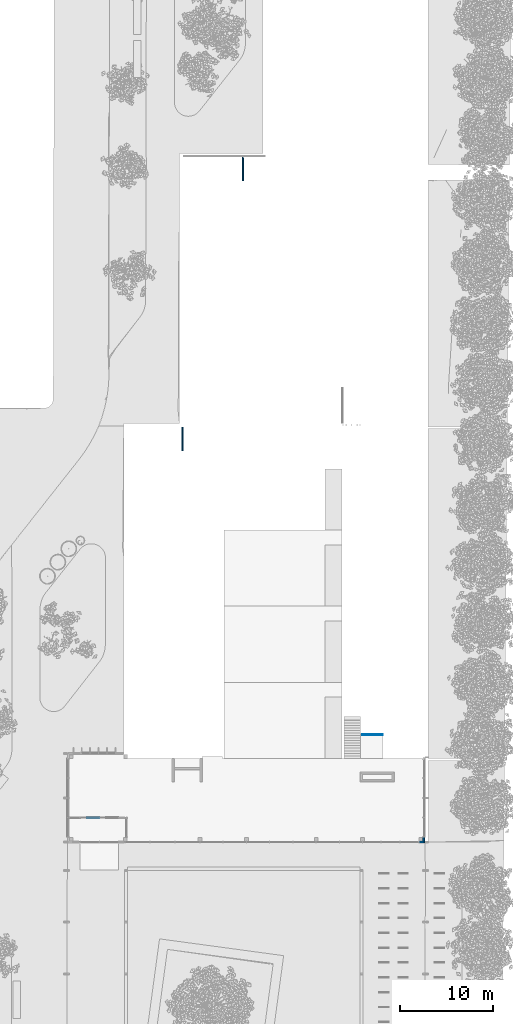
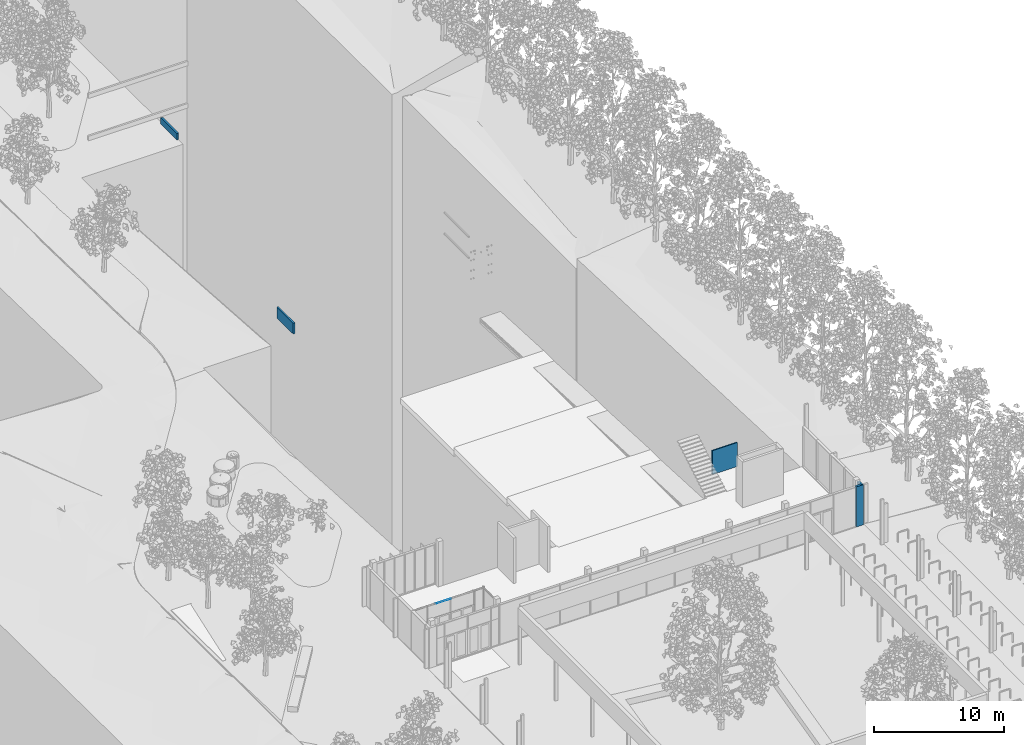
# One storey, part 10 of 69: 5 walls, 1 building element part, 2 elements without a shape of their own.
"""IFC2X3 building model written with IfcOpenShell, lengths in millimetres."""

from ifc_helpers import new_model, entity, si_unit, converted_unit, derived_unit, money_unit, direction, frame, origin_with_axes, place, context, subcontext, project, spatial, polyline, outline, extrude, faceted_brep, source, transform, mapped, material, layer, layer_set, layer_usage, type_object, element, aggregate, save


model = new_model("IFC2X3")

# Units and contexts
model_context = context("Model", 3, precision=0.01, world=origin_with_axes(), true_north=direction((0.0, 1.0)))
body_context = subcontext(model_context, "Body", "Model", "MODEL_VIEW")
ifc_project = project(units=[si_unit("LENGTHUNIT", "METRE", prefix="MILLI"), si_unit("AREAUNIT", "SQUARE_METRE"), si_unit("VOLUMEUNIT", "CUBIC_METRE"), converted_unit("PLANEANGLEUNIT", "DEGREE", entity("IfcPlaneAngleMeasure", 0.0174532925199), si_unit("PLANEANGLEUNIT", "RADIAN"), dimensions=[0, 0, 0, 0, 0, 0, 0]), si_unit("SOLIDANGLEUNIT", "STERADIAN"), money_unit("EUR"), converted_unit("TIMEUNIT", "Year", entity("IfcTimeMeasure", 31556926.0), si_unit("TIMEUNIT", "SECOND"), dimensions=[0, 0, 1, 0, 0, 0, 0]), si_unit("MASSUNIT", "GRAM", prefix="KILO"), si_unit("THERMODYNAMICTEMPERATUREUNIT", "DEGREE_CELSIUS"), si_unit("LUMINOUSINTENSITYUNIT", "LUMEN"), si_unit("ENERGYUNIT", "JOULE", prefix="MEGA"), derived_unit("THERMALCONDUCTANCEUNIT", [(si_unit("POWERUNIT", "WATT"), 1), (si_unit("LENGTHUNIT", "METRE"), -1), (si_unit("THERMODYNAMICTEMPERATUREUNIT", "KELVIN"), -1)]), derived_unit("SPECIFICHEATCAPACITYUNIT", [(si_unit("ENERGYUNIT", "JOULE"), 1), (si_unit("MASSUNIT", "GRAM", prefix="KILO"), -1), (si_unit("THERMODYNAMICTEMPERATUREUNIT", "KELVIN"), -1)]), derived_unit("MASSDENSITYUNIT", [(si_unit("MASSUNIT", "GRAM", prefix="KILO"), 1), (si_unit("VOLUMEUNIT", "CUBIC_METRE"), -1)])], contexts=[model_context])

# Site, building, storey
site_placement = place(None, origin_with_axes())
site = spatial("IfcSite", under=ifc_project, at=site_placement, Name="Puškini 31, Narva", CompositionType="ELEMENT")
building_placement = place(site_placement, origin_with_axes())
building = spatial("IfcBuilding", under=site, at=building_placement, Name="Narva Riigigümnaasium", CompositionType="ELEMENT")
storey_placement = place(building_placement, origin_with_axes())
storey = spatial("IfcBuildingStorey", under=building, at=storey_placement, Name="1.korrus 0.00", CompositionType="ELEMENT", Elevation=0.0)

# Walls
ifc_material_1 = material(Name="siseviimistlus-seinad")
ifc_layer_1 = layer(ifc_material_1, 15.0, ventilated="UNKNOWN")
ifc_material_2 = material(Name="Kipsplaat")
ifc_layer_2 = layer(ifc_material_2, 12.5, ventilated="UNKNOWN")
ifc_layer_3 = layer(ifc_material_2, 12.0, ventilated="UNKNOWN")
ifc_material_3 = material(Name="Karkass")
ifc_layer_4 = layer(ifc_material_3, 66.0, ventilated="UNKNOWN")
ifc_layer_set_1 = layer_set([ifc_layer_1, ifc_layer_2, ifc_layer_3, ifc_layer_4], Name="G-SS-06")
ifc_layer_usage_1 = layer_usage(ifc_layer_set_1, "AXIS2", "POSITIVE", -15.0)
wall_type_1 = type_object("IfcWallType", Name="G-SS-06 106", PredefinedType="NOTDEFINED")
wall_1_placement = place(storey_placement, frame((47700.0285912, 161515.000002, 0.0), z_axis=(0.0, 0.0, 1.0), x_axis=(1.0, 0.0, 0.0)))
element("IfcWallStandardCase", 1, at=wall_1_placement, inside=storey, type_object=wall_type_1, material=ifc_layer_usage_1, Name="Sisesein", context=body_context, shape_type="SweptSolid", body=[
    extrude(outline(polyline([(0.0, -15.0), (2214.73451653, -15.0), (2214.72048418, 90.5), (0.0, 90.5), (0.0, -15.0)])), origin_with_axes(), (0.0, 0.0, 1.0), 2240.0),
])
ifc_material_4 = material(Name="SKR-02_Kipsplaat")
ifc_layer_5 = layer(ifc_material_4, 12.5, ventilated="UNKNOWN")
ifc_material_5 = material(Name="SOJ-03_Soojustus - Mineraal Pehme")
ifc_layer_6 = layer(ifc_material_5, 100.0, ventilated="UNKNOWN")
ifc_layer_set_2 = layer_set([ifc_layer_5, ifc_layer_5, ifc_layer_6, ifc_layer_5, ifc_layer_5], Name="G-SS-09")
ifc_layer_usage_2 = layer_usage(ifc_layer_set_2, "AXIS2", "POSITIVE", 0.0)
wall_type_2 = type_object("IfcWallType", Name="G-SS-09 150", PredefinedType="NOTDEFINED")
wall_2_placement = place(storey_placement, frame((34899.9999996, 221279.999999, -350.0), z_axis=(0.0, 0.0, 1.0), x_axis=(0.0, 1.0, 0.0)))
element("IfcWallStandardCase", 2, at=wall_2_placement, inside=storey, type_object=wall_type_2, material=ifc_layer_usage_2, Name="Sisesein", context=body_context, shape_type="SweptSolid", body=[
    extrude(outline(polyline([(0.0, 0.0), (2441.50000091, 0.0), (2520.00000091, 150.0), (0.0, 150.0), (0.0, 0.0)])), origin_with_axes(), (0.0, 0.0, 1.0), 605.0),
])
wall_3_placement = place(storey_placement, frame((28400.0401775, 192180.0, 1380.0), z_axis=(0.0, 0.0, 1.0), x_axis=(0.0, 1.0, 0.0)))
element("IfcWallStandardCase", 3, at=wall_3_placement, inside=storey, type_object=wall_type_2, material=ifc_layer_usage_2, Name="Sisesein", context=body_context, shape_type="SweptSolid", body=[
    extrude(outline(polyline([(0.0, 0.0), (2519.99999994, 0.0), (2519.99999994, 150.0), (0.0, 150.0), (0.0, 0.0)])), origin_with_axes(), (0.0, 0.0, 1.0), 1010.0),
])
ifc_layer_7 = layer(ifc_material_3, 200.0, ventilated="UNKNOWN")
ifc_layer_set_3 = layer_set([ifc_layer_7], Name="Karkass 200")
ifc_layer_usage_3 = layer_usage(ifc_layer_set_3, "AXIS2", "NEGATIVE", 0.0)
wall_type_3 = type_object("IfcWallType", Name="Karkass 200", PredefinedType="NOTDEFINED")
wall_4_placement = place(storey_placement, frame((54400.000001, 149900.00001, 0.0), z_axis=(0.0, 0.0, 1.0), x_axis=(-1.0, 0.0, 0.0)))
element("IfcWallStandardCase", 4, at=wall_4_placement, inside=storey, type_object=wall_type_3, material=ifc_layer_usage_3, Name="Välissein", context=body_context, shape_type="SweptSolid", body=[
    extrude(outline(polyline([(200.0, -200.0), (620.0, -200.0), (620.0, 0.0), (0.0, 0.0), (200.0, -200.0)])), origin_with_axes(), (0.0, 0.0, 1.0), 3760.0),
])
wall_5_placement = place(storey_placement, frame((54400.000001, 150519.999992, 0.0), z_axis=(0.0, 0.0, 1.0), x_axis=(0.0, -1.0, 0.0)))
element("IfcWallStandardCase", 5, at=wall_5_placement, inside=storey, type_object=wall_type_3, material=ifc_layer_usage_3, Name="Välissein", context=body_context, shape_type="SweptSolid", body=[
    extrude(outline(polyline([(0.0, -200.0), (419.999982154, -200.0), (619.999982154, 0.0), (0.0, 0.0), (0.0, -200.0)])), origin_with_axes(), (0.0, 0.0, 1.0), 3760.0),
])

# Curtain wall, member, building element part
curtain_wall_type = type_object("IfcCurtainWallType", Name="Curtain Wall Type", PredefinedType="NOTDEFINED")
curtain_wall_placement = place(storey_placement, frame((18229.9603698, 152620.000001, -0.397158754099), z_axis=(0.0, 0.0, 1.0), x_axis=(1.0, 0.0, 0.0)))
curtain_wall = element("IfcCurtainWall", 6, at=curtain_wall_placement, inside=storey, type_object=curtain_wall_type, Name="G-KLF-01-1")
member_type = type_object("IfcMemberType", Name="61 x 45", PredefinedType="MULLION")
member_placement = place(curtain_wall_placement, frame((1108.7232635, 0.0, 3760.3971197), z_axis=(-1.0, 0.0, 0.0), x_axis=(0.0, 0.0, 1.0)))
member = element("IfcMember", 7, at=member_placement, type_object=member_type, Name="G-SKLF-01-raam", ObjectType="MULLION")
aggregate(curtain_wall, [member])
ifc_material_6 = material(Name="Membraan - Veekindel")
shared_shape = source(origin_with_axes(), body_context, "Body", "Brep", [
    faceted_brep([(61.0413385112, 34.3890442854, 0.0), (59.5800222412, 34.73794757, 0.0), (59.5800222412, 34.73794757, 1276.31643658), (61.0413385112, 34.3890442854, 1276.31643658), (61.1536677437, 34.1934467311, 0.0), (61.1423164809, 33.9681748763, 0.0), (61.0108941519, 33.784859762, 0.0), (60.7381535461, 33.9217644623, 0.0), (59.8409257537, 34.1343131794, 0.0), (58.2346494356, 34.5489145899, 0.0), (56.9567944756, 35.6067920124, 0.0), (56.2495873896, 37.1074172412, 0.0), (56.1542959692, 37.3107917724, 0.0), (55.9795989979, 37.4519392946, 0.0), (55.7607444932, 37.5023809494, 0.0), (55.1093263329, 37.5023809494, 0.0), (54.8593263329, 37.4353936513, 0.0), (54.676313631, 37.2523809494, 0.0), (54.2721684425, 36.5523809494, 0.0), (54.0891557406, 36.3693682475, 0.0), (53.8391557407, 36.3023809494, 0.0), (51.602145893, 36.3023809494, 0.0), (51.352145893, 36.3693682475, 0.0), (51.1691331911, 36.5523809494, 0.0), (50.7649880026, 37.2523809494, 0.0), (50.5819753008, 37.4353936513, 0.0), (50.3319753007, 37.5023809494, 0.0), (49.2206527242, 37.5023809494, 0.0), (48.9706527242, 37.5693682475, 0.0), (48.7876400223, 37.7523809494, 0.0), (48.7206527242, 38.0023809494, 0.0), (48.7206527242, 39.1999494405, 0.0), (50.10004, 39.1999494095, 0.0), (50.1670287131, 38.9499497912, 0.0), (50.3500424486, 38.7669381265, 0.0), (50.6000428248, 38.699952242, 0.0), (50.8500424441, 38.7669409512, 0.0), (51.0330541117, 38.9499546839, 0.0), (51.10004, 39.1999550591, 0.0), (51.10004, 40.4999366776, 0.0), (51.0598476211, 40.6499366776, 0.0), (50.95004, 40.7597442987, 0.0), (50.80004, 40.7999366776, 0.0), (50.7000457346, 40.7999366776, 0.0), (50.5334025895, 40.8504763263, 0.0), (50.4229059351, 40.9850671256, 0.0), (50.4057850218, 41.1583618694, 0.0), (50.4878083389, 41.3119729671, 0.0), (51.5281601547, 42.3533311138, 0.0), (51.6904310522, 42.4618421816, 0.0), (51.8818844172, 42.4999486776, 0.0), (53.517932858, 42.4999486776, 0.0), (53.7093558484, 42.4618547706, 0.0), (53.8716106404, 42.3533776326, 0.0), (54.9122350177, 41.3120206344, 0.0), (54.9942836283, 41.1584047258, 0.0), (54.9771753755, 40.9850924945, 0.0), (54.866675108, 40.850483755, 0.0), (54.7000173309, 40.7999366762, 0.0), (54.6000210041, 40.7999366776, 0.0), (54.4500210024, 40.7597443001, 0.0), (54.3402133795, 40.6499366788, 0.0), (54.300021, 40.4999366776, 0.0), (54.300021, 39.1999606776, 0.0), (54.3670082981, 38.9499606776, 0.0), (54.5500210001, 38.7669479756, 0.0), (54.8000210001, 38.6999606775, 0.0), (55.0500210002, 38.7669479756, 0.0), (55.2330337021, 38.9499606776, 0.0), (55.3000210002, 39.1999606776, 0.0), (57.3000022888, 39.1999494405, 0.0), (57.3000022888, 39.9999846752, 0.0), (57.5000161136, 39.946391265, 0.0), (57.6464370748, 39.799971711, 0.0), (57.7000324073, 39.5999584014, 0.0), (57.9693613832, 36.5265882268, 0.0), (58.4755028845, 35.3628499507, 0.0), (53.5000340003, 40.7999553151, 0.0), (53.4330491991, 41.0499459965, 0.0), (53.2500433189, 41.2329518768, 0.0), (53.0000526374, 41.299936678, 0.0), (52.4000083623, 41.299936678, 0.0), (52.150017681, 41.2329518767, 0.0), (51.9670118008, 41.0499459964, 0.0), (51.9000269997, 40.799955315, 0.0), (51.9000269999, 39.6999268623, 0.0), (51.9670129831, 39.4499317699, 0.0), (52.1500220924, 39.2669226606, 0.0), (52.4000171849, 39.1999366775, 0.0), (53.0000438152, 39.1999366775, 0.0), (53.2500389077, 39.2669226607, 0.0), (53.433048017, 39.44993177, 0.0), (58.4755028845, 35.3628499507, 1276.31643658), (57.9693613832, 36.5265882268, 1276.31643658), (57.7000324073, 39.5999584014, 1276.31643658), (57.6464370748, 39.799971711, 1276.31643658), (57.5000161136, 39.946391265, 1276.31643658), (57.3000022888, 39.9999846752, 1276.31643658), (57.3000022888, 39.1999494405, 1276.31643658), (55.3000210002, 39.1999606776, 1276.31643658), (55.2330337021, 38.9499606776, 1276.31643658), (55.0500210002, 38.7669479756, 1276.31643658), (54.8000210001, 38.6999606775, 1276.31643658), (54.5500210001, 38.7669479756, 1276.31643658), (54.3670082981, 38.9499606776, 1276.31643658), (54.300021, 39.1999606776, 1276.31643658), (54.300021, 40.4999366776, 1276.31643658), (54.3402133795, 40.6499366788, 1276.31643658), (54.4500210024, 40.7597443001, 1276.31643658), (54.6000210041, 40.7999366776, 1276.31643658), (54.7000173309, 40.7999366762, 1276.31643658), (54.866675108, 40.850483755, 1276.31643658), (54.9771753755, 40.9850924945, 1276.31643658), (54.9942836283, 41.1584047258, 1276.31643658), (54.9122350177, 41.3120206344, 1276.31643658), (53.8716106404, 42.3533776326, 1276.31643658), (53.7093558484, 42.4618547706, 1276.31643658), (53.517932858, 42.4999486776, 1276.31643658), (51.8818844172, 42.4999486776, 1276.31643658), (51.6904310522, 42.4618421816, 1276.31643658), (51.5281601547, 42.3533311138, 1276.31643658), (50.4878083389, 41.3119729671, 1276.31643658), (50.4057850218, 41.1583618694, 1276.31643658), (50.4229059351, 40.9850671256, 1276.31643658), (50.5334025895, 40.8504763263, 1276.31643658), (50.7000457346, 40.7999366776, 1276.31643658), (50.80004, 40.7999366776, 1276.31643658), (50.95004, 40.7597442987, 1276.31643658), (51.0598476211, 40.6499366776, 1276.31643658), (51.10004, 40.4999366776, 1276.31643658), (51.10004, 39.1999550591, 1276.31643658), (51.0330541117, 38.9499546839, 1276.31643658), (50.8500424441, 38.7669409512, 1276.31643658), (50.6000428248, 38.699952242, 1276.31643658), (50.3500424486, 38.7669381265, 1276.31643658), (50.1670287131, 38.9499497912, 1276.31643658), (50.10004, 39.1999494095, 1276.31643658), (48.7206527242, 39.1999494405, 1276.31643658), (48.7206527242, 38.0023809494, 1276.31643658), (48.7876400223, 37.7523809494, 1276.31643658), (48.9706527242, 37.5693682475, 1276.31643658), (49.2206527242, 37.5023809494, 1276.31643658), (50.3319753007, 37.5023809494, 1276.31643658), (50.5819753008, 37.4353936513, 1276.31643658), (50.7649880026, 37.2523809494, 1276.31643658), (51.1691331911, 36.5523809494, 1276.31643658), (51.352145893, 36.3693682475, 1276.31643658), (51.602145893, 36.3023809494, 1276.31643658), (53.8391557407, 36.3023809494, 1276.31643658), (54.0891557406, 36.3693682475, 1276.31643658), (54.2721684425, 36.5523809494, 1276.31643658), (54.676313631, 37.2523809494, 1276.31643658), (54.8593263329, 37.4353936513, 1276.31643658), (55.1093263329, 37.5023809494, 1276.31643658), (55.7607444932, 37.5023809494, 1276.31643658), (55.9795989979, 37.4519392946, 1276.31643658), (56.1542959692, 37.3107917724, 1276.31643658), (56.2495873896, 37.1074172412, 1276.31643658), (56.9567944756, 35.6067920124, 1276.31643658), (58.2346494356, 34.5489145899, 1276.31643658), (59.8409257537, 34.1343131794, 1276.31643658), (60.7381535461, 33.9217644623, 1276.31643658), (61.0108941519, 33.784859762, 1276.31643658), (61.1423164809, 33.9681748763, 1276.31643658), (61.1536677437, 34.1934467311, 1276.31643658), (53.5000340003, 40.7999553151, 1276.31643658), (53.433048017, 39.44993177, 1276.31643658), (53.2500389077, 39.2669226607, 1276.31643658), (53.0000438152, 39.1999366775, 1276.31643658), (52.4000171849, 39.1999366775, 1276.31643658), (52.1500220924, 39.2669226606, 1276.31643658), (51.9670129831, 39.4499317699, 1276.31643658), (51.9000269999, 39.6999268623, 1276.31643658), (51.9000269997, 40.799955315, 1276.31643658), (51.9670118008, 41.0499459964, 1276.31643658), (52.150017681, 41.2329518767, 1276.31643658), (52.4000083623, 41.299936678, 1276.31643658), (53.0000526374, 41.299936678, 1276.31643658), (53.2500433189, 41.2329518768, 1276.31643658), (53.4330491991, 41.0499459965, 1276.31643658)], [[[0, 1, 2, 3]], [[0, 4, 5, 6, 7, 8, 9, 10, 11, 12, 13, 14, 15, 16, 17, 18, 19, 20, 21, 22, 23, 24, 25, 26, 27, 28, 29, 30, 31, 32, 33, 34, 35, 36, 37, 38, 39, 40, 41, 42, 43, 44, 45, 46, 47, 48, 49, 50, 51, 52, 53, 54, 55, 56, 57, 58, 59, 60, 61, 62, 63, 64, 65, 66, 67, 68, 69, 70, 71, 72, 73, 74, 75, 76, 1], [77, 78, 79, 80, 81, 82, 83, 84, 85, 86, 87, 88, 89, 90, 91]], [[1, 76, 92, 2]], [[3, 2, 92, 93, 94, 95, 96, 97, 98, 99, 100, 101, 102, 103, 104, 105, 106, 107, 108, 109, 110, 111, 112, 113, 114, 115, 116, 117, 118, 119, 120, 121, 122, 123, 124, 125, 126, 127, 128, 129, 130, 131, 132, 133, 134, 135, 136, 137, 138, 139, 140, 141, 142, 143, 144, 145, 146, 147, 148, 149, 150, 151, 152, 153, 154, 155, 156, 157, 158, 159, 160, 161, 162, 163, 164], [165, 166, 167, 168, 169, 170, 171, 172, 173, 174, 175, 176, 177, 178, 179]], [[4, 0, 3, 164]], [[5, 4, 164, 163]], [[6, 5, 163, 162]], [[7, 6, 162, 161]], [[8, 7, 161, 160]], [[9, 8, 160, 159]], [[10, 9, 159, 158]], [[11, 10, 158, 157]], [[12, 11, 157, 156]], [[13, 12, 156, 155]], [[14, 13, 155, 154]], [[15, 14, 154, 153]], [[16, 15, 153, 152]], [[17, 16, 152, 151]], [[18, 17, 151, 150]], [[19, 18, 150, 149]], [[20, 19, 149, 148]], [[21, 20, 148, 147]], [[22, 21, 147, 146]], [[23, 22, 146, 145]], [[24, 23, 145, 144]], [[25, 24, 144, 143]], [[26, 25, 143, 142]], [[27, 26, 142, 141]], [[28, 27, 141, 140]], [[29, 28, 140, 139]], [[30, 29, 139, 138]], [[31, 30, 138, 137]], [[32, 31, 137, 136]], [[33, 32, 136, 135]], [[34, 33, 135, 134]], [[35, 34, 134, 133]], [[36, 35, 133, 132]], [[37, 36, 132, 131]], [[38, 37, 131, 130]], [[39, 38, 130, 129]], [[40, 39, 129, 128]], [[41, 40, 128, 127]], [[42, 41, 127, 126]], [[43, 42, 126, 125]], [[44, 43, 125, 124]], [[45, 44, 124, 123]], [[46, 45, 123, 122]], [[47, 46, 122, 121]], [[48, 47, 121, 120]], [[49, 48, 120, 119]], [[50, 49, 119, 118]], [[51, 50, 118, 117]], [[52, 51, 117, 116]], [[53, 52, 116, 115]], [[54, 53, 115, 114]], [[55, 54, 114, 113]], [[56, 55, 113, 112]], [[57, 56, 112, 111]], [[58, 57, 111, 110]], [[59, 58, 110, 109]], [[60, 59, 109, 108]], [[61, 60, 108, 107]], [[62, 61, 107, 106]], [[63, 62, 106, 105]], [[64, 63, 105, 104]], [[65, 64, 104, 103]], [[66, 65, 103, 102]], [[67, 66, 102, 101]], [[68, 67, 101, 100]], [[69, 68, 100, 99]], [[70, 69, 99, 98]], [[71, 70, 98, 97]], [[72, 71, 97, 96]], [[73, 72, 96, 95]], [[74, 73, 95, 94]], [[75, 74, 94, 93]], [[76, 75, 93, 92]], [[78, 77, 165, 179]], [[79, 78, 179, 178]], [[80, 79, 178, 177]], [[81, 80, 177, 176]], [[82, 81, 176, 175]], [[83, 82, 175, 174]], [[84, 83, 174, 173]], [[85, 84, 173, 172]], [[86, 85, 172, 171]], [[87, 86, 171, 170]], [[88, 87, 170, 169]], [[89, 88, 169, 168]], [[90, 89, 168, 167]], [[91, 90, 167, 166]], [[77, 91, 166, 165]]]),
    faceted_brep([(59.0307115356, 16.554149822, 0.0), (55.9926715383, 16.8063498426, 0.0), (55.9926715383, 16.8063498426, 1276.31643658), (59.0307115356, 16.554149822, 1276.31643658), (59.3884652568, 16.1092618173, 0.0), (59.5001582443, 15.5494067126, 0.0), (59.3405112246, 15.0012955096, 0.0), (57.5418652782, 10.0035930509, 0.0), (57.2632233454, 8.46932121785, 0.0), (57.1824204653, 8.36745448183, 0.0), (57.0661058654, 8.3093438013, 0.0), (56.9361285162, 8.30590490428, 0.0), (55.5361285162, 8.57803733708, 0.0), (55.4168250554, 8.62997353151, 0.0), (55.3307332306, 8.72753828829, 0.0), (55.2940485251, 8.85237785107, 0.0), (55.4099827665, 9.81272116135, 0.0), (55.3838261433, 9.9780831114, 0.0), (55.2731258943, 10.1036784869, 0.0), (55.1123574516, 10.1503930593, 0.0), (53.0580290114, 10.1503930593, 0.0), (52.8859560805, 10.0961386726, 0.0), (52.7761212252, 9.95299910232, 0.0), (52.3556584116, 8.79778701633, 0.0), (52.2574645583, 8.66326410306, 0.0), (52.1026310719, 8.60190419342, 0.0), (51.938943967, 8.6326446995, 0.0), (51.8169217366, 8.74599822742, 0.0), (45.6142070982, 15.4144760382, 0.0), (45.3418968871, 15.7688623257, 0.0), (45.3195226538, 16.2152275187, 0.0), (45.3889077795, 16.3899097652, 0.0), (45.6241929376, 16.6482027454, 0.0), (45.950966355, 16.7718696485, 0.0), (46.298307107, 16.7340705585, 0.0), (50.5536994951, 15.2121179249, 0.0), (50.8437237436, 15.0307134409, 0.0), (51.0558924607, 14.9074036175, 0.0), (51.3011765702, 14.8998814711, 0.0), (51.5205025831, 15.0099586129, 0.0), (53.1225200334, 16.3483062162, 0.0), (53.7899070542, 16.6230039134, 0.0), (53.7899070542, 16.6230039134, 1276.31643658), (53.1225200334, 16.3483062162, 1276.31643658), (51.5205025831, 15.0099586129, 1276.31643658), (51.3011765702, 14.8998814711, 1276.31643658), (51.0558924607, 14.9074036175, 1276.31643658), (50.8437237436, 15.0307134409, 1276.31643658), (50.5536994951, 15.2121179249, 1276.31643658), (46.298307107, 16.7340705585, 1276.31643658), (45.950966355, 16.7718696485, 1276.31643658), (45.6241929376, 16.6482027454, 1276.31643658), (45.3889077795, 16.3899097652, 1276.31643658), (45.3195226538, 16.2152275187, 1276.31643658), (45.3418968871, 15.7688623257, 1276.31643658), (45.6142070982, 15.4144760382, 1276.31643658), (51.8169217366, 8.74599822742, 1276.31643658), (51.938943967, 8.6326446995, 1276.31643658), (52.1026310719, 8.60190419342, 1276.31643658), (52.2574645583, 8.66326410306, 1276.31643658), (52.3556584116, 8.79778701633, 1276.31643658), (52.7761212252, 9.95299910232, 1276.31643658), (52.8859560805, 10.0961386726, 1276.31643658), (53.0580290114, 10.1503930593, 1276.31643658), (55.1123574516, 10.1503930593, 1276.31643658), (55.2731258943, 10.1036784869, 1276.31643658), (55.3838261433, 9.9780831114, 1276.31643658), (55.4099827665, 9.81272116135, 1276.31643658), (55.2940485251, 8.85237785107, 1276.31643658), (55.3307332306, 8.72753828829, 1276.31643658), (55.4168250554, 8.62997353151, 1276.31643658), (55.5361285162, 8.57803733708, 1276.31643658), (56.9361285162, 8.30590490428, 1276.31643658), (57.0661058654, 8.3093438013, 1276.31643658), (57.1824204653, 8.36745448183, 1276.31643658), (57.2632233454, 8.46932121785, 1276.31643658), (57.5418652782, 10.0035930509, 1276.31643658), (59.3405112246, 15.0012955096, 1276.31643658), (59.5001582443, 15.5494067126, 1276.31643658), (59.3884652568, 16.1092618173, 1276.31643658)], [[[0, 1, 2, 3]], [[0, 4, 5, 6, 7, 8, 9, 10, 11, 12, 13, 14, 15, 16, 17, 18, 19, 20, 21, 22, 23, 24, 25, 26, 27, 28, 29, 30, 31, 32, 33, 34, 35, 36, 37, 38, 39, 40, 41, 1]], [[1, 41, 42, 2]], [[3, 2, 42, 43, 44, 45, 46, 47, 48, 49, 50, 51, 52, 53, 54, 55, 56, 57, 58, 59, 60, 61, 62, 63, 64, 65, 66, 67, 68, 69, 70, 71, 72, 73, 74, 75, 76, 77, 78, 79]], [[4, 0, 3, 79]], [[5, 4, 79, 78]], [[6, 5, 78, 77]], [[7, 6, 77, 76]], [[8, 7, 76, 75]], [[9, 8, 75, 74]], [[10, 9, 74, 73]], [[11, 10, 73, 72]], [[12, 11, 72, 71]], [[13, 12, 71, 70]], [[14, 13, 70, 69]], [[15, 14, 69, 68]], [[16, 15, 68, 67]], [[17, 16, 67, 66]], [[18, 17, 66, 65]], [[19, 18, 65, 64]], [[20, 19, 64, 63]], [[21, 20, 63, 62]], [[22, 21, 62, 61]], [[23, 22, 61, 60]], [[24, 23, 60, 59]], [[25, 24, 59, 58]], [[26, 25, 58, 57]], [[27, 26, 57, 56]], [[28, 27, 56, 55]], [[29, 28, 55, 54]], [[30, 29, 54, 53]], [[31, 30, 53, 52]], [[32, 31, 52, 51]], [[33, 32, 51, 50]], [[34, 33, 50, 49]], [[35, 34, 49, 48]], [[36, 35, 48, 47]], [[37, 36, 47, 46]], [[38, 37, 46, 45]], [[39, 38, 45, 44]], [[40, 39, 44, 43]], [[41, 40, 43, 42]]]),
])
building_element_part_placement = place(member_placement, origin_with_axes())
building_element_part = element("IfcBuildingElementPart", 8, at=building_element_part_placement, material=ifc_material_6, Name="Membraan - Veekindel", context=body_context, shape_type="MappedRepresentation", body=[
    mapped(shared_shape, transform((0.0, 0.0, 0.0), x_axis=(-1.0, 0.0, 0.0), y_axis=(0.0, -1.0, 0.0), z_axis=(0.0, 0.0, 1.0))),
])
aggregate(member, [building_element_part])

save(model, "model.ifc")
